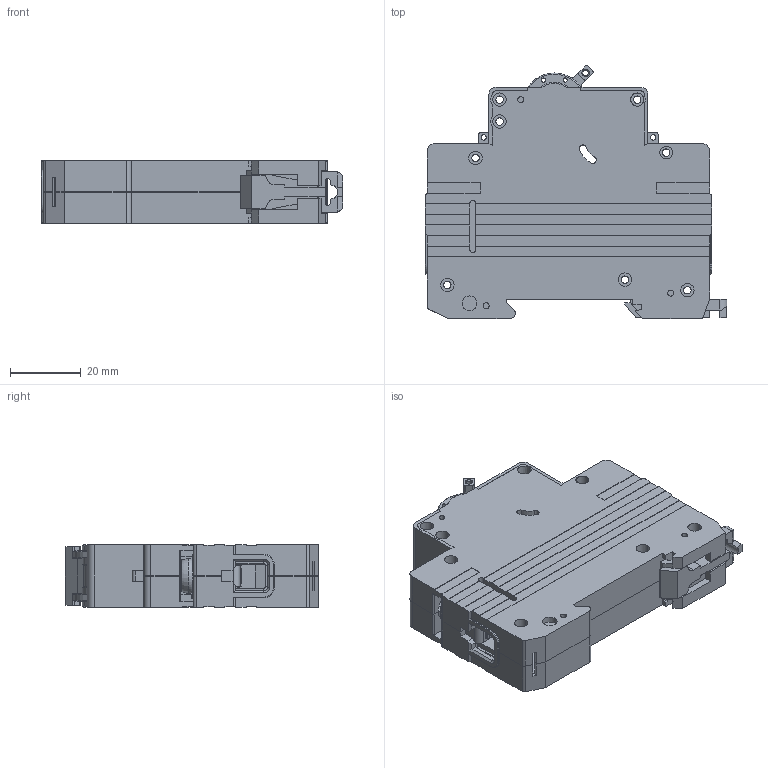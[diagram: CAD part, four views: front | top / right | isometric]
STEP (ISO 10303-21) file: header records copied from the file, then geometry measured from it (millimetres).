
FILE_DESCRIPTION (( 'STEP AP214' ), '1' );
FILE_NAME ('OptiDin ÂÌ63 4,5êÀ - 1 ïîëþñ.STEP', '2022-11-18T08:05:16', ( '' ), ( '' ), 'SwSTEP 2.0', 'SolidWorks 2018', '' );
FILE_SCHEMA (( 'AUTOMOTIVE_DESIGN' ));
Length unit declared in the file: millimetre
Products named in the file (9): 妈眚 闷仁.758151.057.step; Áîêîâèíà ëåâàÿ 042.step; ﾂ鏆鮏 ﾃﾆﾈﾊ.745315.008.step; Çàù¸ëêà ÃÆÈÊ.741358.031.step; Áîêîâèíà ïðàâàÿ 041.step; 蟯63 4,5篔_1; Ðó÷êà ÃÆÈÊ.753725.004.step; OptiDin ÂÌ63 4,5êÀ - 1 ïîëþñ; Êîëîäêà ÃÆÈÊ.745418.015.step
Assembly tree (11 placements, depth 3):
  OptiDin ÂÌ63 4,5êÀ - 1 ïîëþñ
    蟯63 4,5篔_1
      Áîêîâèíà ïðàâàÿ 041.step
      Áîêîâèíà ëåâàÿ 042.step
      ﾂ鏆鮏 ﾃﾆﾈﾊ.745315.008.step  x2
      妈眚 闷仁.758151.057.step  x2
      Êîëîäêà ÃÆÈÊ.745418.015.step  x2
      Ðó÷êà ÃÆÈÊ.753725.004.step
    Çàù¸ëêà ÃÆÈÊ.741358.031.step
Bounding box: 85.5 x 71.7 x 17.8 mm (x, y, z)
Volume: 29365.3 mm3; surface area: 40225 mm2
Topology: 10 solids, 10 shells, 1653 faces, 4484 edges, 2895 vertices
Faces by surface type: plane 1098, cylinder 498, cone 37, torus 14, bspline 4, sphere 2
Entity records: 49784 total; most frequent: CARTESIAN_POINT 8064, ORIENTED_EDGE 7608, DIRECTION 7474, EDGE_CURVE 3804, VECTOR 2790, LINE 2790, VERTEX_POINT 2469, AXIS2_PLACEMENT_3D 2342
